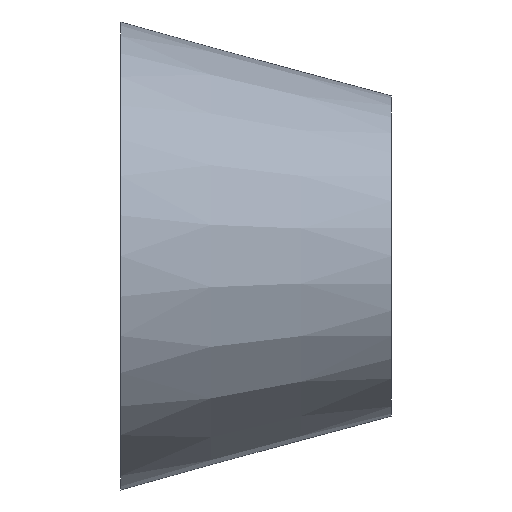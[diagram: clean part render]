
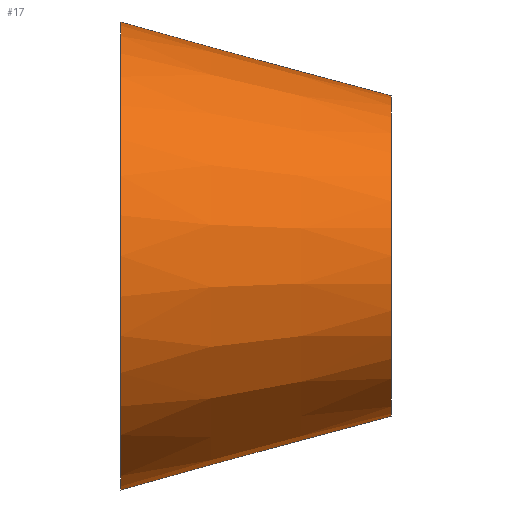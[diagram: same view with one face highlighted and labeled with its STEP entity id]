
A CAD part, front view. The second image highlights one B-rep face of the part: STEP entity #17.
In plain terms, the highlighted conical face has half-angle 15.255 degrees and reference radius 9.5 mm.
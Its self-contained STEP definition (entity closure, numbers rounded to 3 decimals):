
#17 = ADVANCED_FACE('',(#18),#31,.T.);
#18 = FACE_BOUND('',#19,.T.);
#19 = EDGE_LOOP('',(#20,#54,#74,#101));
#20 = ORIENTED_EDGE('',*,*,#21,.T.);
#21 = EDGE_CURVE('',#22,#22,#24,.T.);
#22 = VERTEX_POINT('',#23);
#23 = CARTESIAN_POINT('',(0.,9.5,0.));
#24 = SURFACE_CURVE('',#25,(#30,#42),.PCURVE_S1.);
#25 = CIRCLE('',#26,9.5);
#26 = AXIS2_PLACEMENT_3D('',#27,#28,#29);
#27 = CARTESIAN_POINT('',(0.,0.,0.));
#28 = DIRECTION('',(1.,0.,0.));
#29 = DIRECTION('',(0.,1.,0.));
#30 = PCURVE('',#31,#36);
#31 = CONICAL_SURFACE('',#32,9.5,0.266);
#32 = AXIS2_PLACEMENT_3D('',#33,#34,#35);
#33 = CARTESIAN_POINT('',(0.,0.,0.));
#34 = DIRECTION('',(-1.,-0.,-0.));
#35 = DIRECTION('',(0.,1.,0.));
#36 = DEFINITIONAL_REPRESENTATION('',(#37),#41);
#37 = LINE('',#38,#39);
#38 = CARTESIAN_POINT('',(-0.,-0.));
#39 = VECTOR('',#40,1.);
#40 = DIRECTION('',(-1.,-0.));
#41 = ( GEOMETRIC_REPRESENTATION_CONTEXT(2) 
PARAMETRIC_REPRESENTATION_CONTEXT() REPRESENTATION_CONTEXT('2D SPACE',''
  ) );
#42 = PCURVE('',#43,#48);
#43 = PLANE('',#44);
#44 = AXIS2_PLACEMENT_3D('',#45,#46,#47);
#45 = CARTESIAN_POINT('',(0.,0.,0.));
#46 = DIRECTION('',(1.,0.,0.));
#47 = DIRECTION('',(0.,1.,0.));
#48 = DEFINITIONAL_REPRESENTATION('',(#49),#53);
#49 = CIRCLE('',#50,9.5);
#50 = AXIS2_PLACEMENT_2D('',#51,#52);
#51 = CARTESIAN_POINT('',(0.,0.));
#52 = DIRECTION('',(1.,0.));
#53 = ( GEOMETRIC_REPRESENTATION_CONTEXT(2) 
PARAMETRIC_REPRESENTATION_CONTEXT() REPRESENTATION_CONTEXT('2D SPACE',''
  ) );
#54 = ORIENTED_EDGE('',*,*,#55,.T.);
#55 = EDGE_CURVE('',#22,#56,#58,.T.);
#56 = VERTEX_POINT('',#57);
#57 = CARTESIAN_POINT('',(11.,6.5,0.));
#58 = SEAM_CURVE('',#59,(#62,#68),.PCURVE_S1.);
#59 = B_SPLINE_CURVE_WITH_KNOTS('',1,(#60,#61),.UNSPECIFIED.,.F.,.F.,(2,
    2),(0.,1.),.PIECEWISE_BEZIER_KNOTS.);
#60 = CARTESIAN_POINT('',(0.,9.5,0.));
#61 = CARTESIAN_POINT('',(11.,6.5,0.));
#62 = PCURVE('',#31,#63);
#63 = DEFINITIONAL_REPRESENTATION('',(#64),#67);
#64 = B_SPLINE_CURVE_WITH_KNOTS('',1,(#65,#66),.UNSPECIFIED.,.F.,.F.,(2,
    2),(0.,1.),.PIECEWISE_BEZIER_KNOTS.);
#65 = CARTESIAN_POINT('',(-6.283,0.));
#66 = CARTESIAN_POINT('',(-6.283,-11.));
#67 = ( GEOMETRIC_REPRESENTATION_CONTEXT(2) 
PARAMETRIC_REPRESENTATION_CONTEXT() REPRESENTATION_CONTEXT('2D SPACE',''
  ) );
#68 = PCURVE('',#31,#69);
#69 = DEFINITIONAL_REPRESENTATION('',(#70),#73);
#70 = B_SPLINE_CURVE_WITH_KNOTS('',1,(#71,#72),.UNSPECIFIED.,.F.,.F.,(2,
    2),(0.,1.),.PIECEWISE_BEZIER_KNOTS.);
#71 = CARTESIAN_POINT('',(0.,0.));
#72 = CARTESIAN_POINT('',(0.,-11.));
#73 = ( GEOMETRIC_REPRESENTATION_CONTEXT(2) 
PARAMETRIC_REPRESENTATION_CONTEXT() REPRESENTATION_CONTEXT('2D SPACE',''
  ) );
#74 = ORIENTED_EDGE('',*,*,#75,.F.);
#75 = EDGE_CURVE('',#56,#56,#76,.T.);
#76 = SURFACE_CURVE('',#77,(#82,#89),.PCURVE_S1.);
#77 = CIRCLE('',#78,6.5);
#78 = AXIS2_PLACEMENT_3D('',#79,#80,#81);
#79 = CARTESIAN_POINT('',(11.,0.,0.));
#80 = DIRECTION('',(1.,0.,0.));
#81 = DIRECTION('',(0.,1.,0.));
#82 = PCURVE('',#31,#83);
#83 = DEFINITIONAL_REPRESENTATION('',(#84),#88);
#84 = LINE('',#85,#86);
#85 = CARTESIAN_POINT('',(-0.,-11.));
#86 = VECTOR('',#87,1.);
#87 = DIRECTION('',(-1.,-0.));
#88 = ( GEOMETRIC_REPRESENTATION_CONTEXT(2) 
PARAMETRIC_REPRESENTATION_CONTEXT() REPRESENTATION_CONTEXT('2D SPACE',''
  ) );
#89 = PCURVE('',#90,#95);
#90 = PLANE('',#91);
#91 = AXIS2_PLACEMENT_3D('',#92,#93,#94);
#92 = CARTESIAN_POINT('',(11.,0.,0.));
#93 = DIRECTION('',(1.,0.,0.));
#94 = DIRECTION('',(0.,1.,0.));
#95 = DEFINITIONAL_REPRESENTATION('',(#96),#100);
#96 = CIRCLE('',#97,6.5);
#97 = AXIS2_PLACEMENT_2D('',#98,#99);
#98 = CARTESIAN_POINT('',(0.,0.));
#99 = DIRECTION('',(1.,0.));
#100 = ( GEOMETRIC_REPRESENTATION_CONTEXT(2) 
PARAMETRIC_REPRESENTATION_CONTEXT() REPRESENTATION_CONTEXT('2D SPACE',''
  ) );
#101 = ORIENTED_EDGE('',*,*,#55,.F.);
